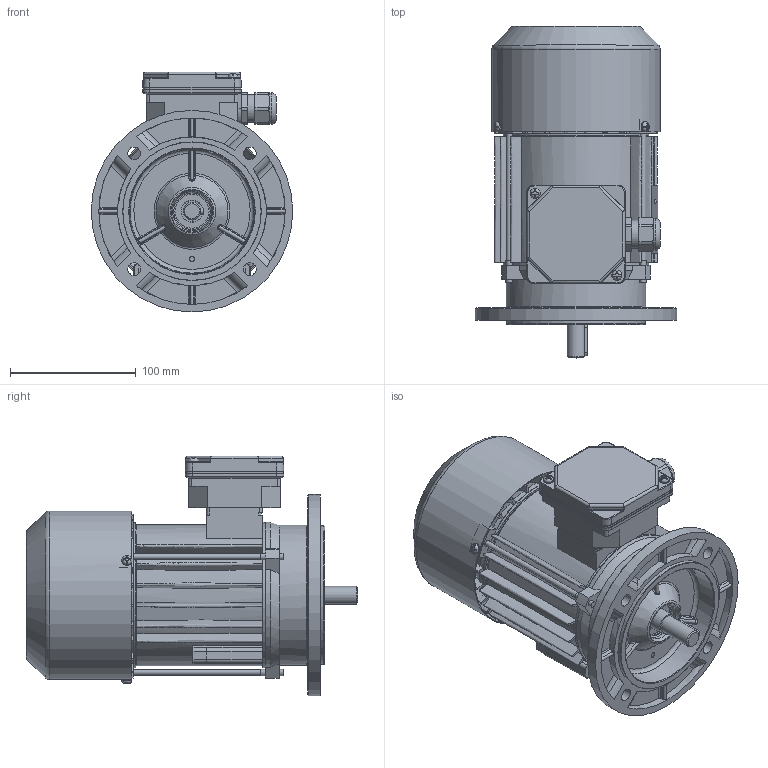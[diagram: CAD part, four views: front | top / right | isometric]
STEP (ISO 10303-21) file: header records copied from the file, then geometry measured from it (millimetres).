
FILE_DESCRIPTION(/* description */ ('Unknown'),/* implementation_level */ '2;1');
FILE_NAME(/* name */ '2SIEK71-6B',/* time_stamp */ '2021-04-13T15:20:49+02:00',/* author */ ('Unknown'),/* organization */ ('Unknown'),/* preprocessor_version */ 'ST-DEVELOPER v16.7',/* originating_system */ 'Solid Edge',/* authorisation */ 'Unknown');
FILE_SCHEMA (('AUTOMOTIVE_DESIGN {1 0 10303 214 3 1 1}'));
Products named in the file (1): 2SIEK71-6B
Bounding box: 160 x 263.49 x 190.5 mm (x, y, z)
Volume: 699216.2 mm3; surface area: 420371.4 mm2
Topology: 2 solids, 2 shells, 2224 faces, 6189 edges, 3972 vertices
Faces by surface type: plane 909, cylinder 655, bspline 338, torus 173, cone 125, sphere 24
Full cylindrical faces by diameter (mm): 3.7 x4, 3.8 x4, 4 x3, 4.6 x3, 4.8 x2, 5 x8, 5.5 x3, 7 x1, 8 x9, 10 x4, 13.999 x1, 15.898 x1, 16.098 x1, 16.498 x1, 16.998 x2, 17.4 x2, 21.998 x2, 22.3 x1, 22.498 x1, 23.098 x1, 23.998 x1, 24.496 x4, 25 x1, 27 x1, 28 x1, 31 x1, 32.502 x4, 36 x2, 40 x3, 73.993 x1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
Entity records: 95082 total; most frequent: CARTESIAN_POINT 26432, ORIENTED_EDGE 11700, DIRECTION 10141, EDGE_CURVE 5850, VERTEX_POINT 3852, AXIS2_PLACEMENT_3D 3828, FACE_BOUND 2610, EDGE_LOOP 2606
